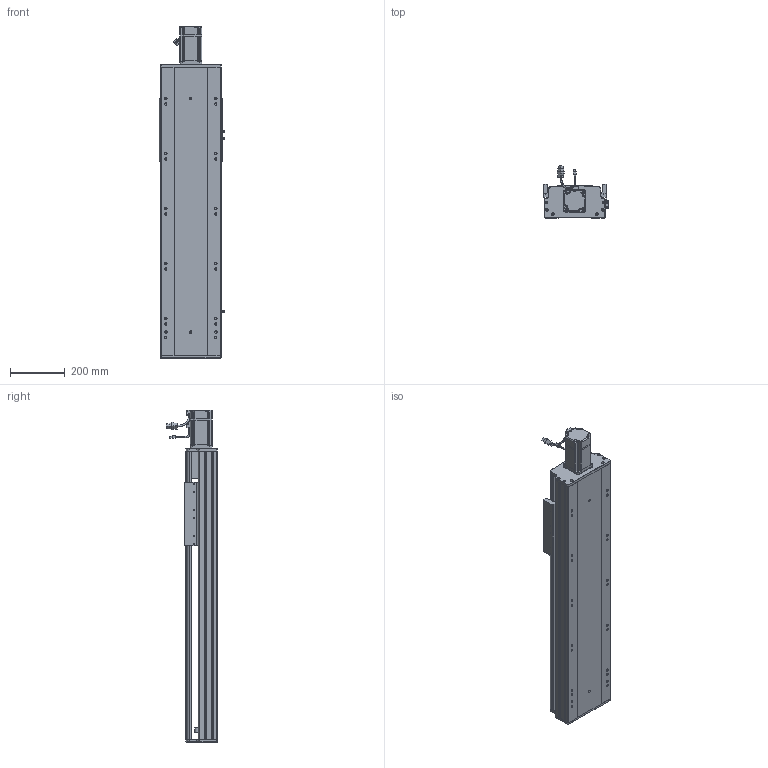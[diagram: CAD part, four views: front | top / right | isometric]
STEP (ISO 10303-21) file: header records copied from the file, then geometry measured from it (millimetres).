
FILE_DESCRIPTION (( 'STEP AP203' ), '1' );
FILE_NAME ('RY220-L2525-300-MK.SLDASM_650.step', '2022-07-04T02:57:33', ( '' ), ( '' ), 'SwSTEP 2.0', 'SolidWorks 2016', '' );
FILE_SCHEMA (( 'CONFIG_CONTROL_DESIGN' ));
Length unit declared in the file: millimetre
Products named in the file (12): 滅袉蝶18-15; RY220-俋离672覜茼んえ; RY220ヶ裔啣; 覜茼ん672; 滅袉蝶18-12; RY220綴裔啣; RY220菁釱MK-300_650; 怢湛750W_ECMA-CX0807ES; RY220电机支撑座FK20（PCD90M6）; RY220-L2525-300-MK.SLDASM_650; RY220半封闭25-32螺母铝滑块; RY220-300-奻裔啣-MK_650
Assembly tree (15 placements, depth 2):
  RY220-L2525-300-MK.SLDASM_650
    RY220菁釱MK-300_650
    RY220电机支撑座FK20（PCD90M6）
    怢湛750W_ECMA-CX0807ES
    滅袉蝶18-12  x2
    RY220ヶ裔啣
    RY220綴裔啣
    覜茼ん672  x3
    RY220半封闭25-32螺母铝滑块
    RY220-300-奻裔啣-MK_650
    RY220-俋离672覜茼んえ
    滅袉蝶18-15  x2
Bounding box: 238.7 x 187.27 x 1208.3 mm (x, y, z)
Volume: 10103867.2 mm3; surface area: 2694568.3 mm2
Topology: 16 solids, 16 shells, 2152 faces, 5966 edges, 3780 vertices
Faces by surface type: cylinder 958, plane 907, cone 225, bspline 36, sphere 16, torus 10
Entity records: 70802 total; most frequent: CARTESIAN_POINT 20231, ORIENTED_EDGE 10520, DIRECTION 9887, EDGE_CURVE 5260, AXIS2_PLACEMENT_3D 3461, VERTEX_POINT 3436, LINE 2965, VECTOR 2965
